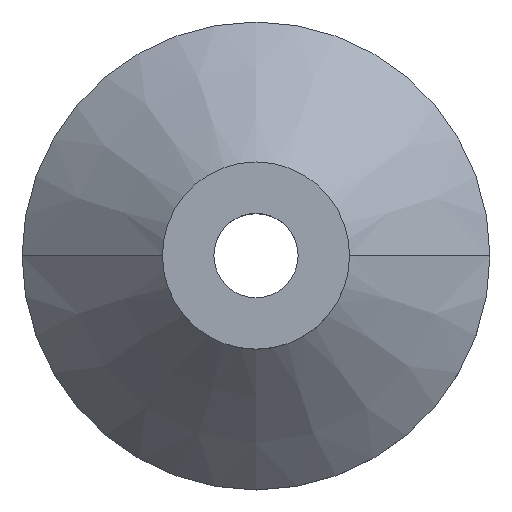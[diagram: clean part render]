
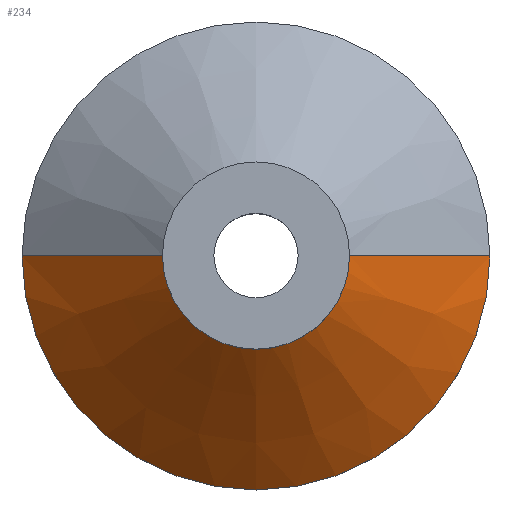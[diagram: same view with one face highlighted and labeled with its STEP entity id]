
A CAD part, top view. The second image highlights one B-rep face of the part: STEP entity #234.
In plain terms, the highlighted conical face has half-angle 46.902 degrees and reference radius 12.5 mm.
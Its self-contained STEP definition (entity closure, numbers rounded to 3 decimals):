
#5 = ORIENTED_EDGE ( 'NONE', *, *, #718, .T. ) ;
#35 = VERTEX_POINT ( 'NONE', #415 ) ;
#122 = EDGE_CURVE ( 'NONE', #468, #581, #219, .T. ) ;
#131 = AXIS2_PLACEMENT_3D ( 'NONE', #572, #517, #282 ) ;
#167 = ORIENTED_EDGE ( 'NONE', *, *, #122, .F. ) ;
#180 = CONICAL_SURFACE ( 'NONE', #276, 12.5, 0.819 ) ;
#219 = LINE ( 'NONE', #455, #453 ) ;
#222 = DIRECTION ( 'NONE',  ( -1., 0., 0. ) ) ;
#225 = CIRCLE ( 'NONE', #131, 5. ) ;
#227 = CARTESIAN_POINT ( 'NONE',  ( 0., 0., -12.268 ) ) ;
#230 = DIRECTION ( 'NONE',  ( -1., 0., 0. ) ) ;
#231 = VERTEX_POINT ( 'NONE', #458 ) ;
#234 = ADVANCED_FACE ( 'NONE', ( #696 ), #180, .T. ) ;
#246 = ORIENTED_EDGE ( 'NONE', *, *, #693, .T. ) ;
#266 = CARTESIAN_POINT ( 'NONE',  ( -12.5, 0., -12.268 ) ) ;
#275 = DIRECTION ( 'NONE',  ( 0., 0., -1. ) ) ;
#276 = AXIS2_PLACEMENT_3D ( 'NONE', #227, #691, #230 ) ;
#282 = DIRECTION ( 'NONE',  ( -1., 0., 0. ) ) ;
#298 = EDGE_LOOP ( 'NONE', ( #167, #246, #5, #476 ) ) ;
#314 = CIRCLE ( 'NONE', #509, 12.5 ) ;
#382 = LINE ( 'NONE', #266, #757 ) ;
#385 = CARTESIAN_POINT ( 'NONE',  ( 5., 0., -5.25 ) ) ;
#415 = CARTESIAN_POINT ( 'NONE',  ( -5., 0., -5.25 ) ) ;
#453 = VECTOR ( 'NONE', #632, 1000. ) ;
#455 = CARTESIAN_POINT ( 'NONE',  ( 12.5, 0., -12.268 ) ) ;
#458 = CARTESIAN_POINT ( 'NONE',  ( -12.5, 0., -12.268 ) ) ;
#468 = VERTEX_POINT ( 'NONE', #385 ) ;
#476 = ORIENTED_EDGE ( 'NONE', *, *, #567, .F. ) ;
#509 = AXIS2_PLACEMENT_3D ( 'NONE', #557, #275, #222 ) ;
#517 = DIRECTION ( 'NONE',  ( 0., 0., -1. ) ) ;
#539 = CARTESIAN_POINT ( 'NONE',  ( 12.5, 0., -12.268 ) ) ;
#557 = CARTESIAN_POINT ( 'NONE',  ( 0., 0., -12.268 ) ) ;
#567 = EDGE_CURVE ( 'NONE', #581, #231, #314, .T. ) ;
#572 = CARTESIAN_POINT ( 'NONE',  ( 0., 0., -5.25 ) ) ;
#581 = VERTEX_POINT ( 'NONE', #539 ) ;
#609 = DIRECTION ( 'NONE',  ( -0.73, 0., -0.683 ) ) ;
#632 = DIRECTION ( 'NONE',  ( 0.73, 0., -0.683 ) ) ;
#691 = DIRECTION ( 'NONE',  ( 0., 0., -1. ) ) ;
#693 = EDGE_CURVE ( 'NONE', #468, #35, #225, .T. ) ;
#696 = FACE_OUTER_BOUND ( 'NONE', #298, .T. ) ;
#718 = EDGE_CURVE ( 'NONE', #35, #231, #382, .T. ) ;
#757 = VECTOR ( 'NONE', #609, 1000. ) ;
